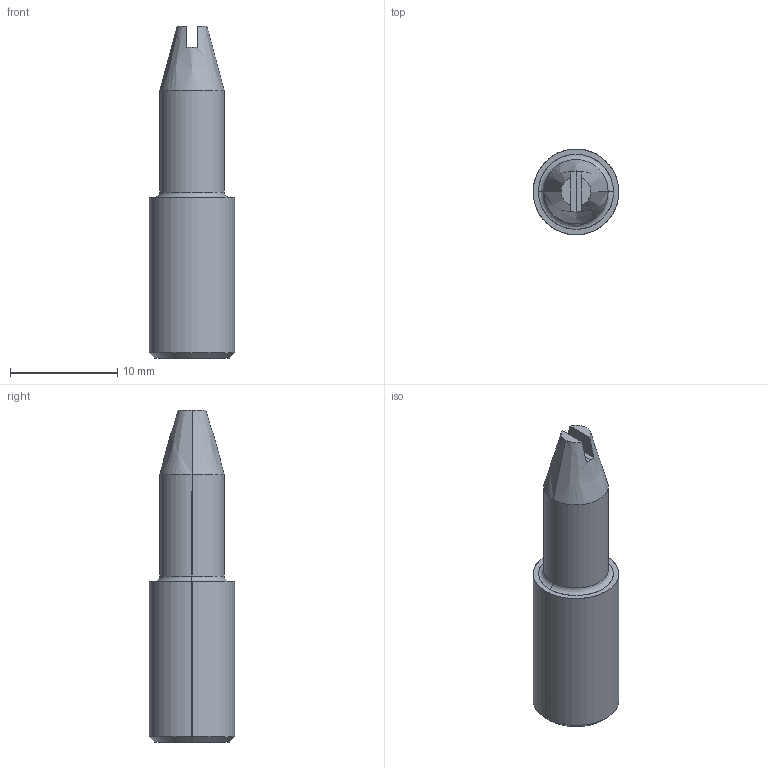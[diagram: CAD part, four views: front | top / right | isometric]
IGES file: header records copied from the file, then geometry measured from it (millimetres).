
Global section: file name: E:\UnigraphicsGraphicData\MISUMI_PRESS-PARTS\IGES\3d_sdst8_03096_r00.igs; native system: NX V5.0; preprocessor: UGS NX IGES V5.0; author: MISUMI; date: 20110105.162517; units: millimetre
Bounding box: 8 x 8 x 31 mm (x, y, z)
Surface area: 884.7 mm2 (no closed solid volume)
Topology: 0 solids, 0 shells, 21 faces, 120 edges, 120 vertices
Faces by surface type: bspline 21
